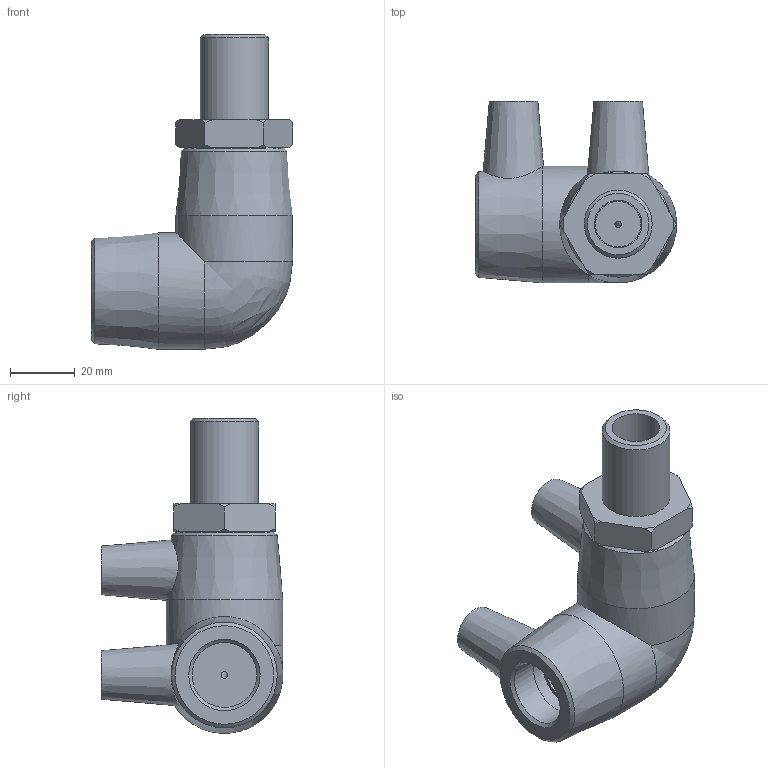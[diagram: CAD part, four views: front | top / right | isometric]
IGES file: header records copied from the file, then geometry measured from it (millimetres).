
Global section: file name: 497504020005.ipt; native system: Autodesk Inventor 2015; preprocessor: unknown; author: KIM; date: 20190421.151313; units: millimetre
Bounding box: 62 x 56 x 96.97 mm (x, y, z)
Volume: 88734.8 mm3; surface area: 26438.2 mm2
Topology: 2 solids, 2 shells, 62 faces, 148 edges, 98 vertices
Faces by surface type: plane 22, cone 19, revolution 14, cylinder 6, bspline 1
Full cylindrical faces by diameter (mm): 4 x2, 20 x1, 20.955 x1, 36 x2
